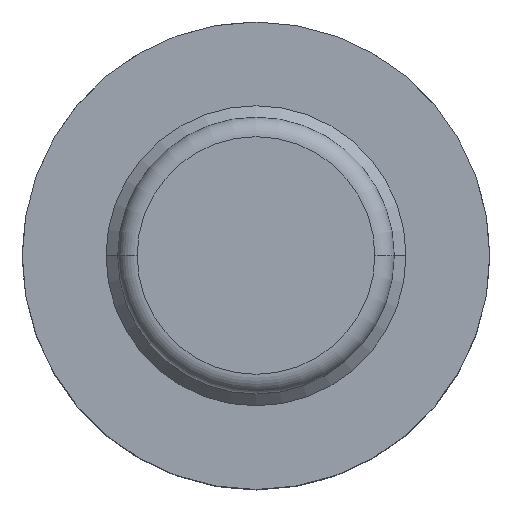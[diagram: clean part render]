
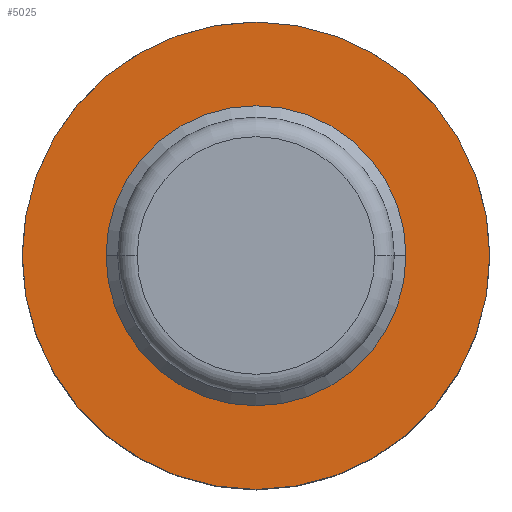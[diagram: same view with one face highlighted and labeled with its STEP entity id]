
A CAD part, top view. The second image highlights one B-rep face of the part: STEP entity #5025.
In plain terms, the highlighted planar face has unit normal (0, 0, 1).
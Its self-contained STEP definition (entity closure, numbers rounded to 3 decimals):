
#1163 = ORIENTED_EDGE ( 'NONE', *, *, #37000, .T. ) ;
#1561 = VERTEX_POINT ( 'NONE', #26996 ) ;
#2464 = EDGE_CURVE ( 'NONE', #12404, #11191, #31855, .T. ) ;
#2841 = DIRECTION ( 'NONE',  ( -1., 0., 0. ) ) ;
#5025 = ADVANCED_FACE ( 'NONE', ( #15513, #10020 ), #32969, .T. ) ;
#5569 = CARTESIAN_POINT ( 'NONE',  ( 0., 0., 3.5 ) ) ;
#5796 = CARTESIAN_POINT ( 'NONE',  ( -3.85, 0., 3.5 ) ) ;
#6538 = EDGE_LOOP ( 'NONE', ( #35211, #18738 ) ) ;
#7352 = AXIS2_PLACEMENT_3D ( 'NONE', #8317, #34960, #2841 ) ;
#8317 = CARTESIAN_POINT ( 'NONE',  ( 0., 0., 3.5 ) ) ;
#10020 = FACE_OUTER_BOUND ( 'NONE', #6538, .T. ) ;
#11191 = VERTEX_POINT ( 'NONE', #36087 ) ;
#11903 = EDGE_LOOP ( 'NONE', ( #1163, #36132 ) ) ;
#12404 = VERTEX_POINT ( 'NONE', #31609 ) ;
#13413 = CIRCLE ( 'NONE', #29329, 3.85 ) ;
#14435 = DIRECTION ( 'NONE',  ( 1., 0., 0. ) ) ;
#15513 = FACE_BOUND ( 'NONE', #11903, .T. ) ;
#15709 = DIRECTION ( 'NONE',  ( 0., 0., 1. ) ) ;
#16574 = DIRECTION ( 'NONE',  ( 0., 0., -1. ) ) ;
#18738 = ORIENTED_EDGE ( 'NONE', *, *, #2464, .F. ) ;
#20269 = CARTESIAN_POINT ( 'NONE',  ( 0., 0., 3.5 ) ) ;
#21041 = CARTESIAN_POINT ( 'NONE',  ( 0., 0., 3.5 ) ) ;
#21424 = DIRECTION ( 'NONE',  ( 1., 0., 0. ) ) ;
#21570 = CIRCLE ( 'NONE', #26426, 3.85 ) ;
#22404 = DIRECTION ( 'NONE',  ( -1., 0., 0. ) ) ;
#23376 = VERTEX_POINT ( 'NONE', #5796 ) ;
#23426 = CIRCLE ( 'NONE', #33945, 6. ) ;
#25071 = CARTESIAN_POINT ( 'NONE',  ( 0., 0., 3.5 ) ) ;
#26356 = DIRECTION ( 'NONE',  ( 0., 0., -1. ) ) ;
#26426 = AXIS2_PLACEMENT_3D ( 'NONE', #20269, #26356, #14435 ) ;
#26716 = EDGE_CURVE ( 'NONE', #11191, #12404, #23426, .T. ) ;
#26996 = CARTESIAN_POINT ( 'NONE',  ( 3.85, 0., 3.5 ) ) ;
#27793 = EDGE_CURVE ( 'NONE', #1561, #23376, #13413, .T. ) ;
#28810 = DIRECTION ( 'NONE',  ( 0., 0., -1. ) ) ;
#29329 = AXIS2_PLACEMENT_3D ( 'NONE', #5569, #28810, #31719 ) ;
#31609 = CARTESIAN_POINT ( 'NONE',  ( 6., 0., 3.5 ) ) ;
#31719 = DIRECTION ( 'NONE',  ( 1., 0., 0. ) ) ;
#31855 = CIRCLE ( 'NONE', #7352, 6. ) ;
#32969 = PLANE ( 'NONE',  #36560 ) ;
#33945 = AXIS2_PLACEMENT_3D ( 'NONE', #25071, #16574, #22404 ) ;
#34960 = DIRECTION ( 'NONE',  ( 0., 0., -1. ) ) ;
#35211 = ORIENTED_EDGE ( 'NONE', *, *, #26716, .F. ) ;
#36087 = CARTESIAN_POINT ( 'NONE',  ( -6., 0., 3.5 ) ) ;
#36132 = ORIENTED_EDGE ( 'NONE', *, *, #27793, .T. ) ;
#36560 = AXIS2_PLACEMENT_3D ( 'NONE', #21041, #15709, #21424 ) ;
#37000 = EDGE_CURVE ( 'NONE', #23376, #1561, #21570, .T. ) ;
